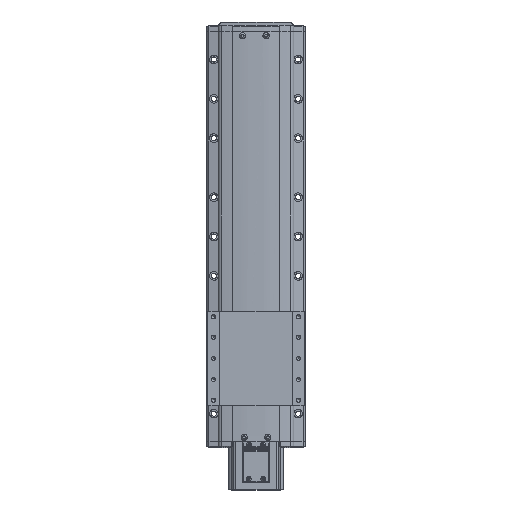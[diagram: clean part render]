
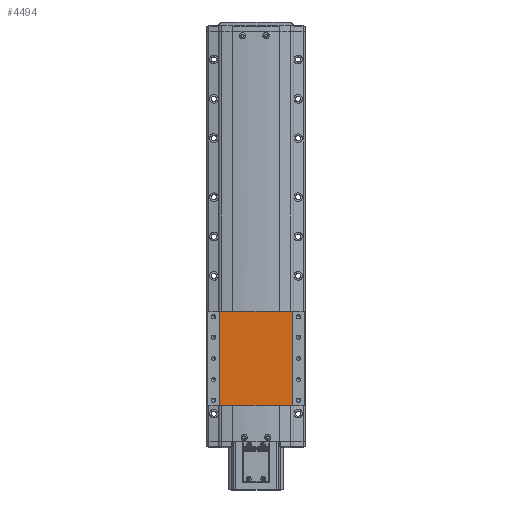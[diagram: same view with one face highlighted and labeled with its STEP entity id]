
A CAD part, top view. The second image highlights one B-rep face of the part: STEP entity #4494.
In plain terms, the highlighted planar face has unit normal (0, 0, 1).
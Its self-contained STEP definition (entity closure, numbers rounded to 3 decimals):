
#4494=ADVANCED_FACE('',(#11515),#11516,.F.);
#11515=FACE_OUTER_BOUND('',#22068,.T.);
#11516=PLANE('',#22069);
#22068=EDGE_LOOP('',(#36352,#36353,#36354,#36355));
#22069=AXIS2_PLACEMENT_3D('',#36356,#36357,#36358);
#36352=ORIENTED_EDGE('',*,*,#63062,.F.);
#36353=ORIENTED_EDGE('',*,*,#63063,.F.);
#36354=ORIENTED_EDGE('',*,*,#63064,.F.);
#36355=ORIENTED_EDGE('',*,*,#63065,.T.);
#36356=CARTESIAN_POINT('',(-300.,-82.778,36.5));
#36357=DIRECTION('',(0.,0.,-1.0));
#36358=DIRECTION('',(-1.0,0.,0.));
#63062=EDGE_CURVE('',#76129,#76130,#76131,.T.);
#63063=EDGE_CURVE('',#76132,#76129,#76133,.T.);
#63064=EDGE_CURVE('',#76134,#76132,#76135,.T.);
#63065=EDGE_CURVE('',#76134,#76130,#76136,.T.);
#76129=VERTEX_POINT('',#94433);
#76130=VERTEX_POINT('',#94434);
#76131=LINE('',#94435,#94436);
#76132=VERTEX_POINT('',#94437);
#76133=LINE('',#94438,#94439);
#76134=VERTEX_POINT('',#94440);
#76135=LINE('',#94441,#94442);
#76136=LINE('',#94443,#94444);
#94433=CARTESIAN_POINT('',(-346.376,37.222,36.5));
#94434=CARTESIAN_POINT('',(-253.624,37.222,36.5));
#94435=CARTESIAN_POINT('',(-253.624,37.222,36.5));
#94436=VECTOR('',#114523,10.0);
#94437=CARTESIAN_POINT('',(-346.376,-82.778,36.5));
#94438=CARTESIAN_POINT('',(-346.376,-82.778,36.5));
#94439=VECTOR('',#114524,10.0);
#94440=CARTESIAN_POINT('',(-253.624,-82.778,36.5));
#94441=CARTESIAN_POINT('',(-253.624,-82.778,36.5));
#94442=VECTOR('',#114525,10.0);
#94443=CARTESIAN_POINT('',(-253.624,-82.778,36.5));
#94444=VECTOR('',#114526,10.0);
#114523=DIRECTION('',(1.0,0.,0.));
#114524=DIRECTION('',(0.,1.0,0.));
#114525=DIRECTION('',(-1.0,0.,0.));
#114526=DIRECTION('',(0.,1.0,0.));
